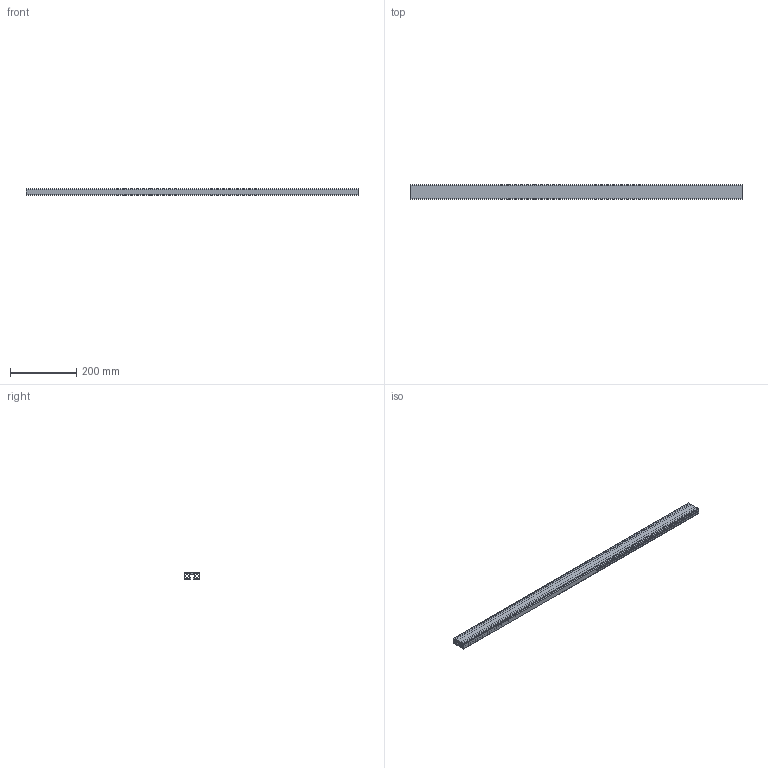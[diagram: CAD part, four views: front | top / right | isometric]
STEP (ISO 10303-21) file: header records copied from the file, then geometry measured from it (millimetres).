
FILE_DESCRIPTION (( 'STEP AP214' ), '1' );
FILE_NAME ('1.0169 45x19 kevyt musta 1000mm.STEP', '2026-03-18T08:23:26', ( '' ), ( '' ), 'SwSTEP 2.0', 'SolidWorks 2025', '' );
FILE_SCHEMA (( 'AUTOMOTIVE_DESIGN' ));
Length unit declared in the file: millimetre
Products named in the file (1): 1.0169 45x19 kevyt musta 1000mm
Bounding box: 1000 x 45 x 19 mm (x, y, z)
Volume: 302735 mm3; surface area: 357820.7 mm2
Topology: 1 solids, 1 shells, 135 faces, 399 edges, 266 vertices
Faces by surface type: cylinder 83, plane 52
Entity records: 4610 total; most frequent: DIRECTION 837, CARTESIAN_POINT 801, ORIENTED_EDGE 798, EDGE_CURVE 399, AXIS2_PLACEMENT_3D 302, VERTEX_POINT 266, LINE 233, VECTOR 233
